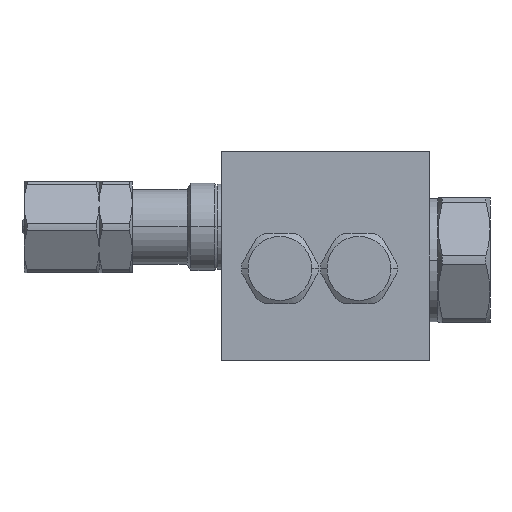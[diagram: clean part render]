
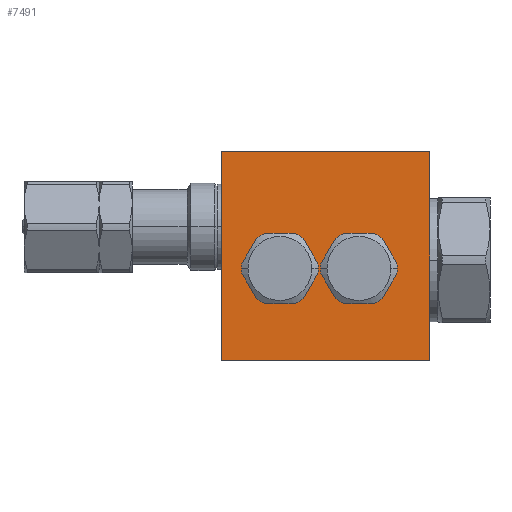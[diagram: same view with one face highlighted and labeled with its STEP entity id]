
A CAD part, left-side view. The second image highlights one B-rep face of the part: STEP entity #7491.
In plain terms, the highlighted planar face has unit normal (-1, 0, 0).
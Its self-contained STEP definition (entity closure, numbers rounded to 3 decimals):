
#295=CARTESIAN_POINT('',(-60.0,11.,3.46));
#296=VERTEX_POINT('',#295);
#305=CARTESIAN_POINT('',(-60.0,11.,-9.46));
#306=VERTEX_POINT('',#305);
#307=CARTESIAN_POINT('',(-60.0,11.,-3.0));
#308=DIRECTION('',(1.0,0.0,0.0));
#309=DIRECTION('',(0.0,0.0,1.0));
#310=AXIS2_PLACEMENT_3D('',#307,#308,#309);
#311=CIRCLE('',#310,6.46);
#312=EDGE_CURVE('',#306,#296,#311,.T.);
#360=CARTESIAN_POINT('',(-60.0,-8.,3.46));
#361=VERTEX_POINT('',#360);
#370=CARTESIAN_POINT('',(-60.0,-8.,-9.46));
#371=VERTEX_POINT('',#370);
#372=CARTESIAN_POINT('',(-60.0,-8.,-3.0));
#373=DIRECTION('',(1.0,0.0,0.0));
#374=DIRECTION('',(0.0,0.0,1.0));
#375=AXIS2_PLACEMENT_3D('',#372,#373,#374);
#376=CIRCLE('',#375,6.46);
#377=EDGE_CURVE('',#371,#361,#376,.T.);
#7089=CARTESIAN_POINT('',(-60.0,-8.,-3.0));
#7090=DIRECTION('',(1.0,0.0,0.0));
#7091=DIRECTION('',(0.0,0.0,1.0));
#7092=AXIS2_PLACEMENT_3D('',#7089,#7090,#7091);
#7093=CIRCLE('',#7092,6.46);
#7094=EDGE_CURVE('',#361,#371,#7093,.T.);
#7124=CARTESIAN_POINT('',(-60.0,11.,-3.0));
#7125=DIRECTION('',(1.0,0.0,0.0));
#7126=DIRECTION('',(0.0,0.0,1.0));
#7127=AXIS2_PLACEMENT_3D('',#7124,#7125,#7126);
#7128=CIRCLE('',#7127,6.46);
#7129=EDGE_CURVE('',#296,#306,#7128,.T.);
#7277=CARTESIAN_POINT('',(-60.0,-25.,-25.0));
#7278=VERTEX_POINT('',#7277);
#7295=CARTESIAN_POINT('',(-60.0,-25.,25.0));
#7296=VERTEX_POINT('',#7295);
#7303=CARTESIAN_POINT('',(-60.0,-25.,-25.0));
#7304=DIRECTION('',(0.0,0.0,1.0));
#7305=VECTOR('',#7304,50.0);
#7306=LINE('',#7303,#7305);
#7307=EDGE_CURVE('',#7278,#7296,#7306,.T.);
#7408=CARTESIAN_POINT('',(-60.0,25.,-25.0));
#7409=VERTEX_POINT('',#7408);
#7416=CARTESIAN_POINT('',(-60.0,25.,25.0));
#7417=VERTEX_POINT('',#7416);
#7418=CARTESIAN_POINT('',(-60.0,25.,25.0));
#7419=DIRECTION('',(0.0,0.0,-1.0));
#7420=VECTOR('',#7419,50.0);
#7421=LINE('',#7418,#7420);
#7422=EDGE_CURVE('',#7417,#7409,#7421,.T.);
#7462=CARTESIAN_POINT('',(-60.0,25.,0.0));
#7463=DIRECTION('',(-1.0,0.0,0.0));
#7464=DIRECTION('',(0.0,0.0,1.0));
#7465=AXIS2_PLACEMENT_3D('',#7462,#7463,#7464);
#7466=PLANE('',#7465);
#7467=CARTESIAN_POINT('',(-60.0,25.,-25.0));
#7468=DIRECTION('',(0.0,-1.0,0.0));
#7469=VECTOR('',#7468,50.);
#7470=LINE('',#7467,#7469);
#7471=EDGE_CURVE('',#7409,#7278,#7470,.T.);
#7472=ORIENTED_EDGE('',*,*,#7471,.T.);
#7473=ORIENTED_EDGE('',*,*,#7307,.T.);
#7474=CARTESIAN_POINT('',(-60.0,-25.,25.0));
#7475=DIRECTION('',(0.0,1.0,0.0));
#7476=VECTOR('',#7475,50.);
#7477=LINE('',#7474,#7476);
#7478=EDGE_CURVE('',#7296,#7417,#7477,.T.);
#7479=ORIENTED_EDGE('',*,*,#7478,.T.);
#7480=ORIENTED_EDGE('',*,*,#7422,.T.);
#7481=EDGE_LOOP('',(#7472,#7473,#7479,#7480));
#7482=FACE_OUTER_BOUND('',#7481,.T.);
#7483=ORIENTED_EDGE('',*,*,#7094,.T.);
#7484=ORIENTED_EDGE('',*,*,#377,.T.);
#7485=EDGE_LOOP('',(#7483,#7484));
#7486=FACE_BOUND('',#7485,.T.);
#7487=ORIENTED_EDGE('',*,*,#7129,.T.);
#7488=ORIENTED_EDGE('',*,*,#312,.T.);
#7489=EDGE_LOOP('',(#7487,#7488));
#7490=FACE_BOUND('',#7489,.T.);
#7491=ADVANCED_FACE('',(#7482,#7486,#7490),#7466,.T.);
